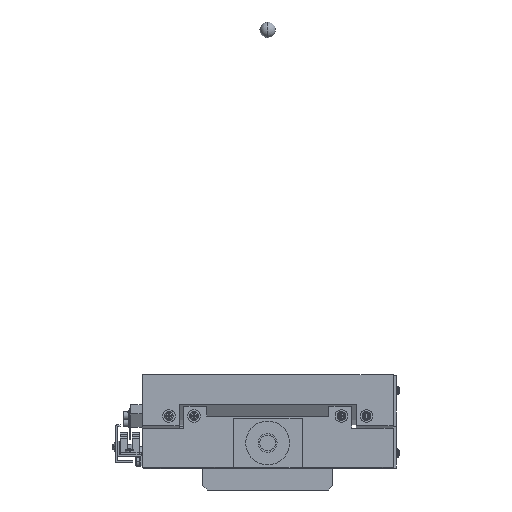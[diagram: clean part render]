
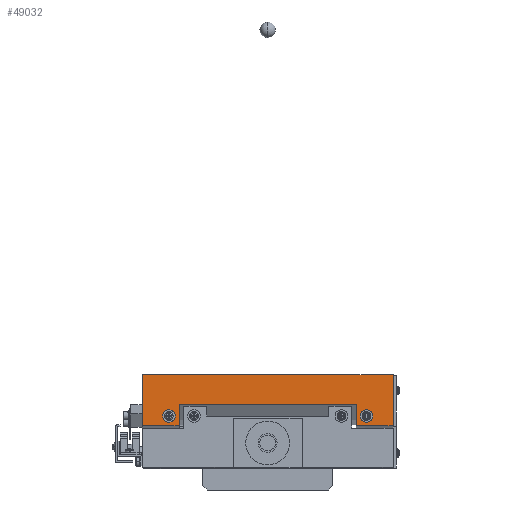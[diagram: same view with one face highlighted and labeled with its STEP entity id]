
A CAD part, left-side view. The second image highlights one B-rep face of the part: STEP entity #49032.
In plain terms, the highlighted planar face has unit normal (-1, 0, 0).
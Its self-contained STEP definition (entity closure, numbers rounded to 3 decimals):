
#186 = VECTOR ( 'NONE', #35038, 1000. ) ;
#2174 = EDGE_CURVE ( 'NONE', #76168, #60106, #37101, .T. ) ;
#3685 = DIRECTION ( 'NONE',  ( -1., 0., 0. ) ) ;
#4627 = LINE ( 'NONE', #16909, #42194 ) ;
#4811 = CARTESIAN_POINT ( 'NONE',  ( -1203.998, -212.181, -243.176 ) ) ;
#6195 = CARTESIAN_POINT ( 'NONE',  ( -1203.998, -339.681, -243.176 ) ) ;
#6311 = VECTOR ( 'NONE', #54651, 1000. ) ;
#6484 = DIRECTION ( 'NONE',  ( 0., -1., 0. ) ) ;
#6747 = EDGE_CURVE ( 'NONE', #44238, #40542, #38155, .T. ) ;
#6807 = ORIENTED_EDGE ( 'NONE', *, *, #80078, .F. ) ;
#8020 = CARTESIAN_POINT ( 'NONE',  ( -1203.998, -348.681, -243.176 ) ) ;
#8906 = DIRECTION ( 'NONE',  ( 0., 0., 1. ) ) ;
#9016 = DIRECTION ( 'NONE',  ( -1., 0., 0. ) ) ;
#9535 = PLANE ( 'NONE',  #70468 ) ;
#9617 = CARTESIAN_POINT ( 'NONE',  ( -1203.998, -197.681, -243.176 ) ) ;
#12745 = CARTESIAN_POINT ( 'NONE',  ( -1203.998, -325.181, -230.558 ) ) ;
#14470 = VECTOR ( 'NONE', #30324, 1000. ) ;
#15189 = EDGE_LOOP ( 'NONE', ( #62939, #24521 ) ) ;
#15784 = CARTESIAN_POINT ( 'NONE',  ( -1203.998, -209.681, -236.84 ) ) ;
#16909 = CARTESIAN_POINT ( 'NONE',  ( -1203.998, -188.681, -243.176 ) ) ;
#17945 = VECTOR ( 'NONE', #8906, 1000. ) ;
#18625 = CARTESIAN_POINT ( 'NONE',  ( -1203.998, -205.681, -236.84 ) ) ;
#19110 = EDGE_CURVE ( 'NONE', #47097, #66052, #56203, .T. ) ;
#20029 = DIRECTION ( 'NONE',  ( -1., 0., 0. ) ) ;
#20310 = DIRECTION ( 'NONE',  ( 0., 1., 0. ) ) ;
#20760 = VECTOR ( 'NONE', #59655, 1000. ) ;
#20979 = VERTEX_POINT ( 'NONE', #37730 ) ;
#21130 = CARTESIAN_POINT ( 'NONE',  ( -1203.998, -325.181, -229.504 ) ) ;
#24521 = ORIENTED_EDGE ( 'NONE', *, *, #52394, .F. ) ;
#25187 = ORIENTED_EDGE ( 'NONE', *, *, #74950, .T. ) ;
#25596 = CIRCLE ( 'NONE', #55559, 4. ) ;
#27497 = VERTEX_POINT ( 'NONE', #63929 ) ;
#30324 = DIRECTION ( 'NONE',  ( 0., 1., 0. ) ) ;
#31840 = CARTESIAN_POINT ( 'NONE',  ( -1203.998, -325.181, -243.176 ) ) ;
#32114 = DIRECTION ( 'NONE',  ( 0., 1., 0. ) ) ;
#32336 = DIRECTION ( 'NONE',  ( 0., 1., 0. ) ) ;
#34519 = LINE ( 'NONE', #6195, #42899 ) ;
#34552 = CARTESIAN_POINT ( 'NONE',  ( -1203.998, -331.681, -236.84 ) ) ;
#34703 = AXIS2_PLACEMENT_3D ( 'NONE', #62240, #61950, #32114 ) ;
#35038 = DIRECTION ( 'NONE',  ( 0., 1., 0. ) ) ;
#35647 = EDGE_CURVE ( 'NONE', #71429, #20979, #48212, .T. ) ;
#37101 = LINE ( 'NONE', #79468, #65310 ) ;
#37538 = CARTESIAN_POINT ( 'NONE',  ( -1203.998, -348.681, -210.54 ) ) ;
#37730 = CARTESIAN_POINT ( 'NONE',  ( -1203.998, -212.181, -229.504 ) ) ;
#38130 = DIRECTION ( 'NONE',  ( -1., 0., 0. ) ) ;
#38155 = CIRCLE ( 'NONE', #50225, 4. ) ;
#40542 = VERTEX_POINT ( 'NONE', #76629 ) ;
#40668 = EDGE_CURVE ( 'NONE', #58585, #63767, #25596, .T. ) ;
#41535 = CARTESIAN_POINT ( 'NONE',  ( -1203.998, -201.681, -236.84 ) ) ;
#41803 = LINE ( 'NONE', #8020, #6311 ) ;
#42194 = VECTOR ( 'NONE', #58026, 1000. ) ;
#42899 = VECTOR ( 'NONE', #6484, 1000. ) ;
#42952 = EDGE_LOOP ( 'NONE', ( #56389, #25187, #59970, #71207, #75419, #6807, #46969, #54589 ) ) ;
#43259 = EDGE_CURVE ( 'NONE', #27497, #76168, #41803, .T. ) ;
#44238 = VERTEX_POINT ( 'NONE', #78695 ) ;
#45828 = FACE_BOUND ( 'NONE', #15189, .T. ) ;
#46969 = ORIENTED_EDGE ( 'NONE', *, *, #35647, .T. ) ;
#47097 = VERTEX_POINT ( 'NONE', #31840 ) ;
#47634 = VERTEX_POINT ( 'NONE', #85364 ) ;
#47948 = EDGE_CURVE ( 'NONE', #63767, #58585, #51232, .T. ) ;
#48212 = LINE ( 'NONE', #55837, #17945 ) ;
#49032 = ADVANCED_FACE ( 'NONE', ( #68780, #69793, #45828 ), #9535, .T. ) ;
#50225 = AXIS2_PLACEMENT_3D ( 'NONE', #55946, #9016, #75745 ) ;
#51232 = CIRCLE ( 'NONE', #34703, 4. ) ;
#51852 = EDGE_LOOP ( 'NONE', ( #71789, #75884 ) ) ;
#52394 = EDGE_CURVE ( 'NONE', #40542, #44238, #55991, .T. ) ;
#54589 = ORIENTED_EDGE ( 'NONE', *, *, #64383, .F. ) ;
#54651 = DIRECTION ( 'NONE',  ( 0., 0., 1. ) ) ;
#55559 = AXIS2_PLACEMENT_3D ( 'NONE', #18625, #38130, #32336 ) ;
#55837 = CARTESIAN_POINT ( 'NONE',  ( -1203.998, -212.181, -230.558 ) ) ;
#55946 = CARTESIAN_POINT ( 'NONE',  ( -1203.998, -331.681, -236.84 ) ) ;
#55991 = CIRCLE ( 'NONE', #81373, 4. ) ;
#56173 = DIRECTION ( 'NONE',  ( 0., 0., 1. ) ) ;
#56203 = LINE ( 'NONE', #12745, #20760 ) ;
#56389 = ORIENTED_EDGE ( 'NONE', *, *, #19110, .F. ) ;
#58026 = DIRECTION ( 'NONE',  ( 0., 0., 1. ) ) ;
#58502 = DIRECTION ( 'NONE',  ( 0., 1., 0. ) ) ;
#58585 = VERTEX_POINT ( 'NONE', #15784 ) ;
#59655 = DIRECTION ( 'NONE',  ( 0., 0., 1. ) ) ;
#59970 = ORIENTED_EDGE ( 'NONE', *, *, #43259, .T. ) ;
#60106 = VERTEX_POINT ( 'NONE', #71134 ) ;
#60401 = LINE ( 'NONE', #9617, #14470 ) ;
#60719 = CARTESIAN_POINT ( 'NONE',  ( -1203.998, -325.181, -229.504 ) ) ;
#61950 = DIRECTION ( 'NONE',  ( -1., 0., 0. ) ) ;
#62240 = CARTESIAN_POINT ( 'NONE',  ( -1203.998, -205.681, -236.84 ) ) ;
#62760 = LINE ( 'NONE', #60719, #186 ) ;
#62939 = ORIENTED_EDGE ( 'NONE', *, *, #6747, .F. ) ;
#63767 = VERTEX_POINT ( 'NONE', #41535 ) ;
#63929 = CARTESIAN_POINT ( 'NONE',  ( -1203.998, -348.681, -243.176 ) ) ;
#64383 = EDGE_CURVE ( 'NONE', #66052, #20979, #62760, .T. ) ;
#65310 = VECTOR ( 'NONE', #58502, 1000. ) ;
#66052 = VERTEX_POINT ( 'NONE', #21130 ) ;
#68780 = FACE_OUTER_BOUND ( 'NONE', #42952, .T. ) ;
#68839 = EDGE_CURVE ( 'NONE', #47634, #60106, #4627, .T. ) ;
#69793 = FACE_BOUND ( 'NONE', #51852, .T. ) ;
#70468 = AXIS2_PLACEMENT_3D ( 'NONE', #76828, #3685, #56173 ) ;
#71134 = CARTESIAN_POINT ( 'NONE',  ( -1203.998, -188.681, -210.54 ) ) ;
#71207 = ORIENTED_EDGE ( 'NONE', *, *, #2174, .T. ) ;
#71429 = VERTEX_POINT ( 'NONE', #4811 ) ;
#71789 = ORIENTED_EDGE ( 'NONE', *, *, #47948, .F. ) ;
#74950 = EDGE_CURVE ( 'NONE', #47097, #27497, #34519, .T. ) ;
#75419 = ORIENTED_EDGE ( 'NONE', *, *, #68839, .F. ) ;
#75745 = DIRECTION ( 'NONE',  ( 0., 1., 0. ) ) ;
#75884 = ORIENTED_EDGE ( 'NONE', *, *, #40668, .F. ) ;
#76168 = VERTEX_POINT ( 'NONE', #37538 ) ;
#76629 = CARTESIAN_POINT ( 'NONE',  ( -1203.998, -335.681, -236.84 ) ) ;
#76828 = CARTESIAN_POINT ( 'NONE',  ( -1203.998, -197.681, -243.176 ) ) ;
#78695 = CARTESIAN_POINT ( 'NONE',  ( -1203.998, -327.681, -236.84 ) ) ;
#79468 = CARTESIAN_POINT ( 'NONE',  ( -1203.998, -197.681, -210.54 ) ) ;
#80078 = EDGE_CURVE ( 'NONE', #71429, #47634, #60401, .T. ) ;
#81373 = AXIS2_PLACEMENT_3D ( 'NONE', #34552, #20029, #20310 ) ;
#85364 = CARTESIAN_POINT ( 'NONE',  ( -1203.998, -188.681, -243.176 ) ) ;
